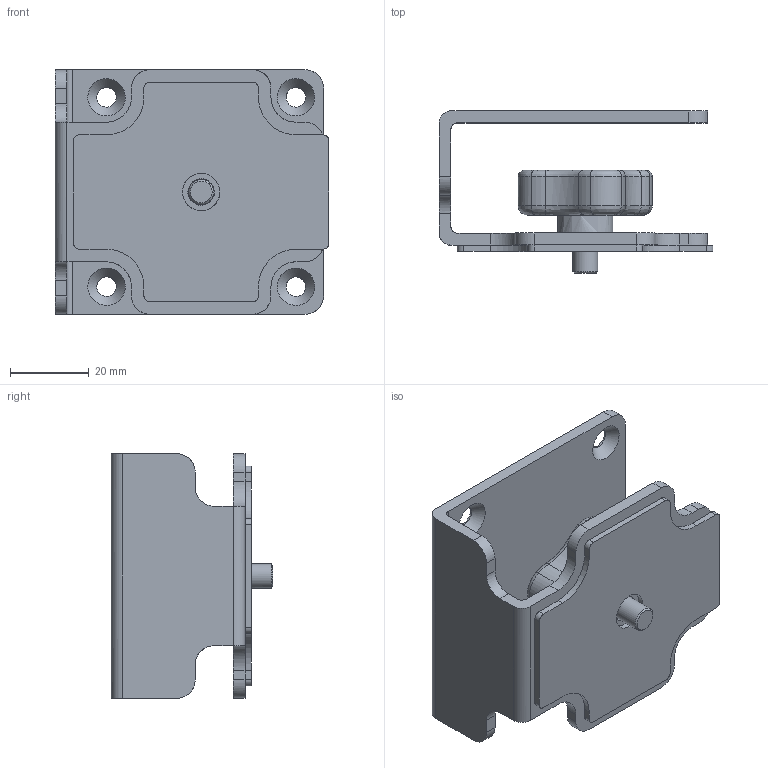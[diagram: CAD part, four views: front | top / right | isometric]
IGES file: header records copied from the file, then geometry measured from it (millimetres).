
Global section: file name: 8263_Shrinkwrap_1; native system: Autodesk Inventor 2016; preprocessor: unknown; author: chochberg; date: 20180601.135515; units: inch
Bounding box: 69.79 x 41.25 x 62.31 mm (x, y, z)
Volume: 38152 mm3; surface area: 24419.2 mm2
Topology: 1 solids, 1 shells, 198 faces, 523 edges, 333 vertices
Faces by surface type: bspline 198
